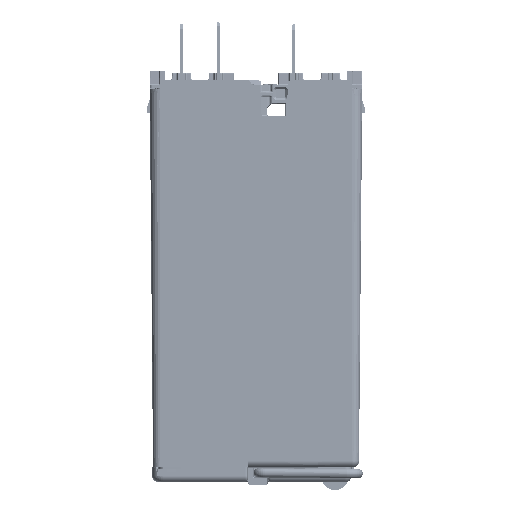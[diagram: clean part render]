
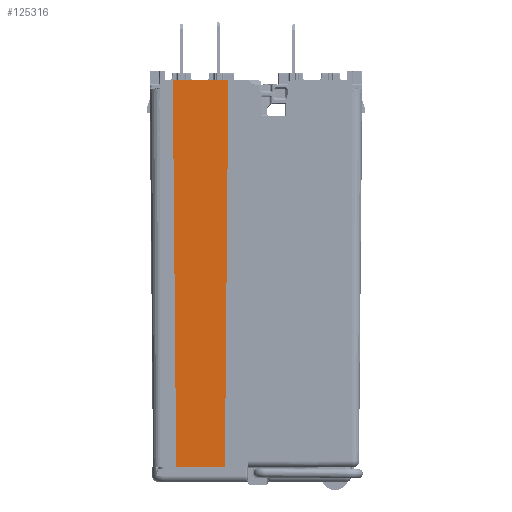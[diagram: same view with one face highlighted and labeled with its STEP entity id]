
A CAD part, left-side view. The second image highlights one B-rep face of the part: STEP entity #125316.
In plain terms, the highlighted planar face has unit normal (-1, 0, -0.009) as drawn and (1, 0, 0.009) by its records, which use the part's own axes.
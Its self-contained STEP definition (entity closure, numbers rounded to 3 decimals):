
#1662 = CARTESIAN_POINT ( 'NONE',  ( -16.243, -11.258, 0. ) ) ;
#3989 = VERTEX_POINT ( 'NONE', #129613 ) ;
#6974 = VECTOR ( 'NONE', #119351, 1000. ) ;
#11675 = ORIENTED_EDGE ( 'NONE', *, *, #121718, .F. ) ;
#13962 = VECTOR ( 'NONE', #156215, 1000. ) ;
#14211 = EDGE_CURVE ( 'NONE', #3989, #122351, #73330, .T. ) ;
#15362 = LINE ( 'NONE', #107712, #81792 ) ;
#19554 = DIRECTION ( 'NONE',  ( 0.009, 0.009, -1. ) ) ;
#24139 = VECTOR ( 'NONE', #59344, 1000. ) ;
#26913 = ORIENTED_EDGE ( 'NONE', *, *, #95302, .F. ) ;
#30244 = ORIENTED_EDGE ( 'NONE', *, *, #14211, .F. ) ;
#31256 = ORIENTED_EDGE ( 'NONE', *, *, #92001, .F. ) ;
#32393 = EDGE_CURVE ( 'NONE', #122351, #63924, #48214, .T. ) ;
#41177 = VERTEX_POINT ( 'NONE', #1662 ) ;
#42779 = DIRECTION ( 'NONE',  ( 0., 1., 0. ) ) ;
#44435 = LINE ( 'NONE', #55324, #140067 ) ;
#46791 = CARTESIAN_POINT ( 'NONE',  ( -17.022, -10.479, 89.297 ) ) ;
#48214 = LINE ( 'NONE', #143919, #110765 ) ;
#52945 = VERTEX_POINT ( 'NONE', #134196 ) ;
#55324 = CARTESIAN_POINT ( 'NONE',  ( -17.022, 0.763, 89.3 ) ) ;
#59344 = DIRECTION ( 'NONE',  ( 0., 1., 0. ) ) ;
#59498 = LINE ( 'NONE', #125265, #88846 ) ;
#60180 = VERTEX_POINT ( 'NONE', #98909 ) ;
#63924 = VERTEX_POINT ( 'NONE', #145411 ) ;
#67380 = DIRECTION ( 'NONE',  ( -1., 0., -0.009 ) ) ;
#73330 = LINE ( 'NONE', #106876, #6974 ) ;
#74630 = EDGE_CURVE ( 'NONE', #52945, #3989, #44435, .T. ) ;
#75509 = DIRECTION ( 'NONE',  ( -0.009, -0.001, 1. ) ) ;
#79412 = PLANE ( 'NONE',  #89099 ) ;
#81792 = VECTOR ( 'NONE', #95710, 1000. ) ;
#88846 = VECTOR ( 'NONE', #75509, 1000. ) ;
#89099 = AXIS2_PLACEMENT_3D ( 'NONE', #142117, #67380, #154686 ) ;
#89989 = FACE_OUTER_BOUND ( 'NONE', #160878, .T. ) ;
#90285 = EDGE_CURVE ( 'NONE', #99700, #60180, #123765, .T. ) ;
#91680 = ORIENTED_EDGE ( 'NONE', *, *, #32393, .F. ) ;
#92001 = EDGE_CURVE ( 'NONE', #63924, #41177, #125323, .T. ) ;
#94487 = CARTESIAN_POINT ( 'NONE',  ( -17.022, 0.763, 89.3 ) ) ;
#95302 = EDGE_CURVE ( 'NONE', #41177, #99700, #15362, .T. ) ;
#95710 = DIRECTION ( 'NONE',  ( -0.009, 0.009, 1. ) ) ;
#98909 = CARTESIAN_POINT ( 'NONE',  ( -17.022, -3.242, 89.297 ) ) ;
#99700 = VERTEX_POINT ( 'NONE', #132202 ) ;
#106664 = CARTESIAN_POINT ( 'NONE',  ( -16.243, -11.258, 0. ) ) ;
#106876 = CARTESIAN_POINT ( 'NONE',  ( -17.022, -0.258, 89.3 ) ) ;
#107712 = CARTESIAN_POINT ( 'NONE',  ( -16.243, -11.258, 0. ) ) ;
#110765 = VECTOR ( 'NONE', #19554, 1000. ) ;
#119351 = DIRECTION ( 'NONE',  ( 0., 1., 0. ) ) ;
#121718 = EDGE_CURVE ( 'NONE', #60180, #52945, #59498, .T. ) ;
#122351 = VERTEX_POINT ( 'NONE', #94487 ) ;
#123765 = LINE ( 'NONE', #46791, #24139 ) ;
#125265 = CARTESIAN_POINT ( 'NONE',  ( -17.023, -3.242, 89.306 ) ) ;
#125316 = ADVANCED_FACE ( 'NONE', ( #89989 ), #79412, .F. ) ;
#125323 = LINE ( 'NONE', #106664, #13962 ) ;
#129613 = CARTESIAN_POINT ( 'NONE',  ( -17.022, -0.258, 89.3 ) ) ;
#132202 = CARTESIAN_POINT ( 'NONE',  ( -17.022, -10.479, 89.297 ) ) ;
#134196 = CARTESIAN_POINT ( 'NONE',  ( -17.022, -3.242, 89.3 ) ) ;
#140067 = VECTOR ( 'NONE', #42779, 1000. ) ;
#142117 = CARTESIAN_POINT ( 'NONE',  ( -17.022, -10.479, 89.3 ) ) ;
#143919 = CARTESIAN_POINT ( 'NONE',  ( -17.022, 0.763, 89.3 ) ) ;
#145411 = CARTESIAN_POINT ( 'NONE',  ( -16.243, 1.542, 0. ) ) ;
#153512 = ORIENTED_EDGE ( 'NONE', *, *, #74630, .F. ) ;
#154686 = DIRECTION ( 'NONE',  ( 0.009, 0., -1. ) ) ;
#156215 = DIRECTION ( 'NONE',  ( 0., -1., 0. ) ) ;
#160878 = EDGE_LOOP ( 'NONE', ( #26913, #31256, #91680, #30244, #153512, #11675, #161554 ) ) ;
#161554 = ORIENTED_EDGE ( 'NONE', *, *, #90285, .F. ) ;
